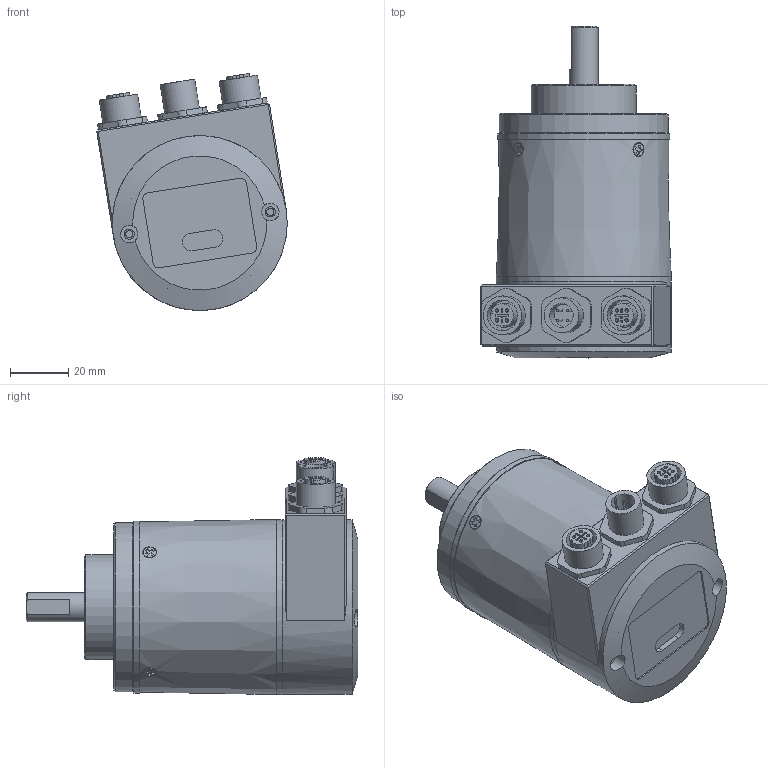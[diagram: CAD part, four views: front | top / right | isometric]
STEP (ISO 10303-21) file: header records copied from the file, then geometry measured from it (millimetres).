
FILE_DESCRIPTION(/* description */ ('Unknown'),/* implementation_level */ '2;1');
FILE_NAME(/* name */ 'AAM_58_CR_PFN',/* time_stamp */ '2019-03-08T10:41:47+01:00',/* author */ ('Unknown'),/* organization */ ('Unknown'),/* preprocessor_version */ 'ST-DEVELOPER v16.7',/* originating_system */ 'DEX',/* authorisation */ $);
FILE_SCHEMA (('AP242_MANAGED_MODEL_BASED_3D_ENGINEERING_MIM_LF { 1 0 10303 442 1 1 4 }','AUTOMOTIVE_DESIGN {1 0 10303 214 3 1 1}'));
Length unit declared in the file: millimetre
Products named in the file (1): AAM_58_CR_PFN
Bounding box: 65.34 x 113.8 x 81.29 mm (x, y, z)
Volume: 104997.5 mm3; surface area: 68968 mm2
Topology: 16 solids, 16 shells, 563 faces, 1379 edges, 912 vertices
Faces by surface type: plane 287, cylinder 226, cone 42, bspline 8
Full cylindrical faces by diameter (mm): 0.8 x4, 1.2 x8, 1.6 x2, 2.05 x16, 2.5 x9, 2.532 x4, 3.26 x4, 3.5 x5, 6 x2, 8 x2, 9 x1, 10 x5, 10.5 x2, 12 x8, 13.125 x1, 13.3 x2, 13.391 x1, 14 x3, 20 x3, 22 x2, 22.897 x1, 22.952 x1, 23 x3, 26 x3, 36 x1, 54 x1, 54.9 x2, 56 x1, 56.6 x3, 57 x1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
Entity records: 16319 total; most frequent: CARTESIAN_POINT 3316, DIRECTION 2728, ORIENTED_EDGE 2364, EDGE_CURVE 1182, AXIS2_PLACEMENT_3D 1045, VERTEX_POINT 879, FACE_BOUND 847, EDGE_LOOP 829
